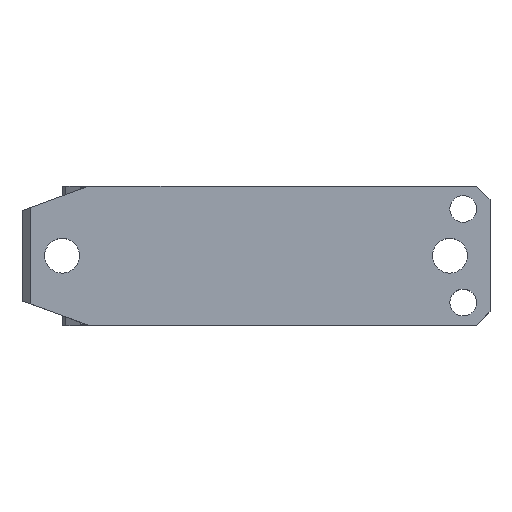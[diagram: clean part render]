
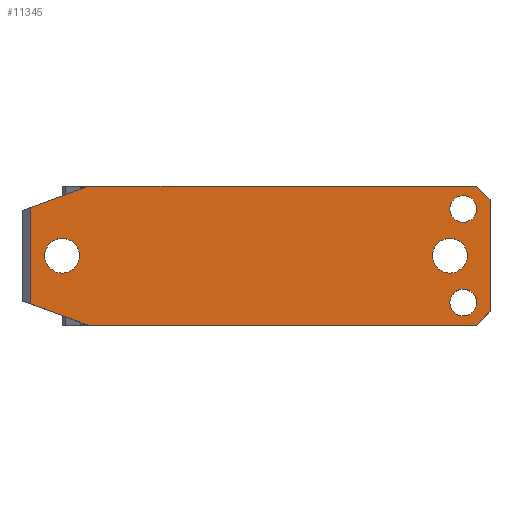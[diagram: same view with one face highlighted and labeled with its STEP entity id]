
A CAD part, top view. The second image highlights one B-rep face of the part: STEP entity #11345.
In plain terms, the highlighted planar face has unit normal (0, 0, 1).
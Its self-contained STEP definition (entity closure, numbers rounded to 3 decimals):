
#59 = DIRECTION ( 'NONE',  ( -1., 0., 0. ) ) ;
#124 = FACE_BOUND ( 'NONE', #4322, .T. ) ;
#132 = EDGE_CURVE ( 'NONE', #4153, #1945, #2193, .T. ) ;
#208 = EDGE_CURVE ( 'NONE', #6303, #6963, #3817, .T. ) ;
#561 = VECTOR ( 'NONE', #9445, 1000. ) ;
#596 = EDGE_CURVE ( 'NONE', #10088, #852, #9393, .T. ) ;
#669 = CARTESIAN_POINT ( 'NONE',  ( -29., 17.993, 125. ) ) ;
#847 = CARTESIAN_POINT ( 'NONE',  ( 133., -17.5, 125. ) ) ;
#852 = VERTEX_POINT ( 'NONE', #1413 ) ;
#1034 = CARTESIAN_POINT ( 'NONE',  ( 133., -17.5, 125. ) ) ;
#1323 = VECTOR ( 'NONE', #7476, 1000. ) ;
#1362 = DIRECTION ( 'NONE',  ( 0.94, 0.342, 0. ) ) ;
#1379 = ORIENTED_EDGE ( 'NONE', *, *, #2744, .F. ) ;
#1413 = CARTESIAN_POINT ( 'NONE',  ( 128., -17.5, 125. ) ) ;
#1491 = CARTESIAN_POINT ( 'NONE',  ( 138., 17.5, 125. ) ) ;
#1528 = EDGE_LOOP ( 'NONE', ( #6845, #6721 ) ) ;
#1532 = DIRECTION ( 'NONE',  ( 0., 0., -1. ) ) ;
#1579 = DIRECTION ( 'NONE',  ( 0., 0., -1. ) ) ;
#1602 = ORIENTED_EDGE ( 'NONE', *, *, #10754, .T. ) ;
#1615 = LINE ( 'NONE', #7442, #6930 ) ;
#1675 = CARTESIAN_POINT ( 'NONE',  ( -29., -17.993, 125. ) ) ;
#1802 = DIRECTION ( 'NONE',  ( -1., 0., 0. ) ) ;
#1803 = DIRECTION ( 'NONE',  ( 1., 0., 0. ) ) ;
#1825 = CARTESIAN_POINT ( 'NONE',  ( -23.5, 0., 125. ) ) ;
#1945 = VERTEX_POINT ( 'NONE', #10805 ) ;
#1984 = DIRECTION ( 'NONE',  ( -1., 0., 0. ) ) ;
#2009 = EDGE_CURVE ( 'NONE', #10940, #2781, #5169, .T. ) ;
#2108 = AXIS2_PLACEMENT_3D ( 'NONE', #7215, #1579, #8150 ) ;
#2193 = LINE ( 'NONE', #11222, #12159 ) ;
#2207 = AXIS2_PLACEMENT_3D ( 'NONE', #847, #7440, #1802 ) ;
#2337 = FACE_BOUND ( 'NONE', #1528, .T. ) ;
#2462 = DIRECTION ( 'NONE',  ( 0., 0., -1. ) ) ;
#2505 = VERTEX_POINT ( 'NONE', #7080 ) ;
#2718 = CIRCLE ( 'NONE', #2207, 5. ) ;
#2744 = EDGE_CURVE ( 'NONE', #2505, #6774, #1615, .T. ) ;
#2781 = VERTEX_POINT ( 'NONE', #7481 ) ;
#2840 = EDGE_CURVE ( 'NONE', #5911, #8983, #5730, .T. ) ;
#3057 = LINE ( 'NONE', #7567, #561 ) ;
#3359 = LINE ( 'NONE', #11936, #8069 ) ;
#3378 = CARTESIAN_POINT ( 'NONE',  ( -32., 26., 125. ) ) ;
#3502 = EDGE_CURVE ( 'NONE', #7032, #6963, #3359, .T. ) ;
#3540 = ORIENTED_EDGE ( 'NONE', *, *, #3502, .F. ) ;
#3627 = ORIENTED_EDGE ( 'NONE', *, *, #8479, .F. ) ;
#3681 = CARTESIAN_POINT ( 'NONE',  ( 128., 17.5, 125. ) ) ;
#3770 = VERTEX_POINT ( 'NONE', #8550 ) ;
#3817 = LINE ( 'NONE', #8455, #1323 ) ;
#4153 = VERTEX_POINT ( 'NONE', #5374 ) ;
#4199 = CARTESIAN_POINT ( 'NONE',  ( 138., 26., 125. ) ) ;
#4204 = AXIS2_PLACEMENT_3D ( 'NONE', #4773, #11316, #5711 ) ;
#4322 = EDGE_LOOP ( 'NONE', ( #11639, #9157 ) ) ;
#4428 = LINE ( 'NONE', #11921, #11301 ) ;
#4589 = CARTESIAN_POINT ( 'NONE',  ( -7., -26., 125. ) ) ;
#4725 = CARTESIAN_POINT ( 'NONE',  ( -17., 0., 125. ) ) ;
#4738 = CARTESIAN_POINT ( 'NONE',  ( 121.5, 0., 125. ) ) ;
#4741 = CARTESIAN_POINT ( 'NONE',  ( -10.5, 0., 125. ) ) ;
#4773 = CARTESIAN_POINT ( 'NONE',  ( 133., 17.5, 125. ) ) ;
#5169 = CIRCLE ( 'NONE', #2108, 6.5 ) ;
#5191 = AXIS2_PLACEMENT_3D ( 'NONE', #1034, #7620, #1984 ) ;
#5343 = CARTESIAN_POINT ( 'NONE',  ( 128., 0., 125. ) ) ;
#5351 = ORIENTED_EDGE ( 'NONE', *, *, #6512, .T. ) ;
#5374 = CARTESIAN_POINT ( 'NONE',  ( 143., 21., 125. ) ) ;
#5660 = EDGE_CURVE ( 'NONE', #1945, #3770, #3057, .T. ) ;
#5672 = DIRECTION ( 'NONE',  ( -1., 0., 0. ) ) ;
#5702 = DIRECTION ( 'NONE',  ( 0., 0., -1. ) ) ;
#5711 = DIRECTION ( 'NONE',  ( -1., 0., 0. ) ) ;
#5730 = CIRCLE ( 'NONE', #11476, 6.5 ) ;
#5812 = VECTOR ( 'NONE', #1362, 1000. ) ;
#5911 = VERTEX_POINT ( 'NONE', #4741 ) ;
#5999 = EDGE_CURVE ( 'NONE', #6774, #4153, #7612, .T. ) ;
#6228 = VERTEX_POINT ( 'NONE', #1491 ) ;
#6303 = VERTEX_POINT ( 'NONE', #669 ) ;
#6318 = DIRECTION ( 'NONE',  ( -1., 0., 0. ) ) ;
#6357 = DIRECTION ( 'NONE',  ( -0.94, 0.342, 0. ) ) ;
#6396 = AXIS2_PLACEMENT_3D ( 'NONE', #8088, #2462, #9040 ) ;
#6512 = EDGE_CURVE ( 'NONE', #8983, #5911, #11391, .T. ) ;
#6721 = ORIENTED_EDGE ( 'NONE', *, *, #10238, .T. ) ;
#6774 = VERTEX_POINT ( 'NONE', #4199 ) ;
#6845 = ORIENTED_EDGE ( 'NONE', *, *, #2009, .T. ) ;
#6851 = EDGE_CURVE ( 'NONE', #11961, #6228, #8181, .T. ) ;
#6930 = VECTOR ( 'NONE', #1803, 1000. ) ;
#6963 = VERTEX_POINT ( 'NONE', #1675 ) ;
#7032 = VERTEX_POINT ( 'NONE', #4589 ) ;
#7080 = CARTESIAN_POINT ( 'NONE',  ( -7., 26., 125. ) ) ;
#7128 = EDGE_LOOP ( 'NONE', ( #5351, #11389 ) ) ;
#7215 = CARTESIAN_POINT ( 'NONE',  ( 128., 0., 125. ) ) ;
#7440 = DIRECTION ( 'NONE',  ( 0., 0., -1. ) ) ;
#7442 = CARTESIAN_POINT ( 'NONE',  ( -32., 26., 125. ) ) ;
#7476 = DIRECTION ( 'NONE',  ( 0., -1., 0. ) ) ;
#7481 = CARTESIAN_POINT ( 'NONE',  ( 134.5, 0., 125. ) ) ;
#7508 = AXIS2_PLACEMENT_3D ( 'NONE', #5343, #11892, #6318 ) ;
#7567 = CARTESIAN_POINT ( 'NONE',  ( 138., -26., 125. ) ) ;
#7612 = LINE ( 'NONE', #10474, #11709 ) ;
#7620 = DIRECTION ( 'NONE',  ( 0., 0., -1. ) ) ;
#7804 = AXIS2_PLACEMENT_3D ( 'NONE', #3378, #1532, #8104 ) ;
#8069 = VECTOR ( 'NONE', #6357, 1000. ) ;
#8088 = CARTESIAN_POINT ( 'NONE',  ( 133., 17.5, 125. ) ) ;
#8104 = DIRECTION ( 'NONE',  ( -1., 0., 0. ) ) ;
#8150 = DIRECTION ( 'NONE',  ( -1., 0., 0. ) ) ;
#8181 = CIRCLE ( 'NONE', #6396, 5. ) ;
#8278 = ORIENTED_EDGE ( 'NONE', *, *, #5999, .F. ) ;
#8301 = LINE ( 'NONE', #9784, #5812 ) ;
#8455 = CARTESIAN_POINT ( 'NONE',  ( -29., 26., 125. ) ) ;
#8479 = EDGE_CURVE ( 'NONE', #6303, #2505, #8301, .T. ) ;
#8550 = CARTESIAN_POINT ( 'NONE',  ( 138., -26., 125. ) ) ;
#8983 = VERTEX_POINT ( 'NONE', #1825 ) ;
#9040 = DIRECTION ( 'NONE',  ( -1., 0., 0. ) ) ;
#9100 = DIRECTION ( 'NONE',  ( 1., 0., 0. ) ) ;
#9142 = ORIENTED_EDGE ( 'NONE', *, *, #5660, .F. ) ;
#9157 = ORIENTED_EDGE ( 'NONE', *, *, #596, .T. ) ;
#9393 = CIRCLE ( 'NONE', #5191, 5. ) ;
#9445 = DIRECTION ( 'NONE',  ( -0.707, -0.707, 0. ) ) ;
#9585 = DIRECTION ( 'NONE',  ( 0.707, -0.707, 0. ) ) ;
#9683 = EDGE_CURVE ( 'NONE', #6228, #11961, #10025, .T. ) ;
#9762 = ORIENTED_EDGE ( 'NONE', *, *, #6851, .T. ) ;
#9784 = CARTESIAN_POINT ( 'NONE',  ( -32., 16.901, 125. ) ) ;
#9838 = FACE_BOUND ( 'NONE', #11183, .T. ) ;
#9880 = ORIENTED_EDGE ( 'NONE', *, *, #208, .T. ) ;
#10013 = CIRCLE ( 'NONE', #7508, 6.5 ) ;
#10025 = CIRCLE ( 'NONE', #4204, 5. ) ;
#10088 = VERTEX_POINT ( 'NONE', #11691 ) ;
#10118 = FACE_BOUND ( 'NONE', #7128, .T. ) ;
#10238 = EDGE_CURVE ( 'NONE', #2781, #10940, #10013, .T. ) ;
#10465 = ORIENTED_EDGE ( 'NONE', *, *, #132, .F. ) ;
#10474 = CARTESIAN_POINT ( 'NONE',  ( 138., 26., 125. ) ) ;
#10754 = EDGE_CURVE ( 'NONE', #7032, #3770, #4428, .T. ) ;
#10805 = CARTESIAN_POINT ( 'NONE',  ( 143., -21., 125. ) ) ;
#10902 = EDGE_LOOP ( 'NONE', ( #3627, #9880, #3540, #1602, #9142, #10465, #8278, #1379 ) ) ;
#10940 = VERTEX_POINT ( 'NONE', #4738 ) ;
#11183 = EDGE_LOOP ( 'NONE', ( #9762, #12043 ) ) ;
#11222 = CARTESIAN_POINT ( 'NONE',  ( 143., 26., 125. ) ) ;
#11224 = AXIS2_PLACEMENT_3D ( 'NONE', #4725, #11272, #5672 ) ;
#11272 = DIRECTION ( 'NONE',  ( 0., 0., -1. ) ) ;
#11301 = VECTOR ( 'NONE', #9100, 1000. ) ;
#11304 = CARTESIAN_POINT ( 'NONE',  ( -17., 0., 125. ) ) ;
#11316 = DIRECTION ( 'NONE',  ( 0., 0., -1. ) ) ;
#11345 = ADVANCED_FACE ( 'NONE', ( #124, #9838, #10118, #2337, #12017 ), #11827, .F. ) ;
#11349 = DIRECTION ( 'NONE',  ( 0., -1., 0. ) ) ;
#11389 = ORIENTED_EDGE ( 'NONE', *, *, #2840, .T. ) ;
#11391 = CIRCLE ( 'NONE', #11224, 6.5 ) ;
#11476 = AXIS2_PLACEMENT_3D ( 'NONE', #11304, #5702, #59 ) ;
#11639 = ORIENTED_EDGE ( 'NONE', *, *, #11922, .T. ) ;
#11691 = CARTESIAN_POINT ( 'NONE',  ( 138., -17.5, 125. ) ) ;
#11709 = VECTOR ( 'NONE', #9585, 1000. ) ;
#11827 = PLANE ( 'NONE',  #7804 ) ;
#11892 = DIRECTION ( 'NONE',  ( 0., 0., -1. ) ) ;
#11921 = CARTESIAN_POINT ( 'NONE',  ( -32., -26., 125. ) ) ;
#11922 = EDGE_CURVE ( 'NONE', #852, #10088, #2718, .T. ) ;
#11936 = CARTESIAN_POINT ( 'NONE',  ( -32., -16.901, 125. ) ) ;
#11961 = VERTEX_POINT ( 'NONE', #3681 ) ;
#12017 = FACE_OUTER_BOUND ( 'NONE', #10902, .T. ) ;
#12043 = ORIENTED_EDGE ( 'NONE', *, *, #9683, .T. ) ;
#12159 = VECTOR ( 'NONE', #11349, 1000. ) ;
